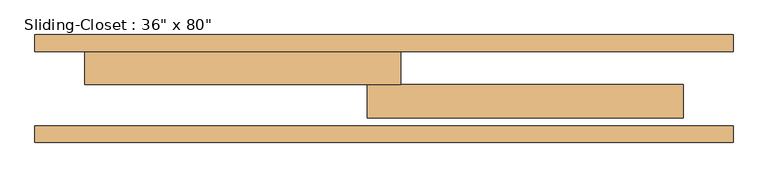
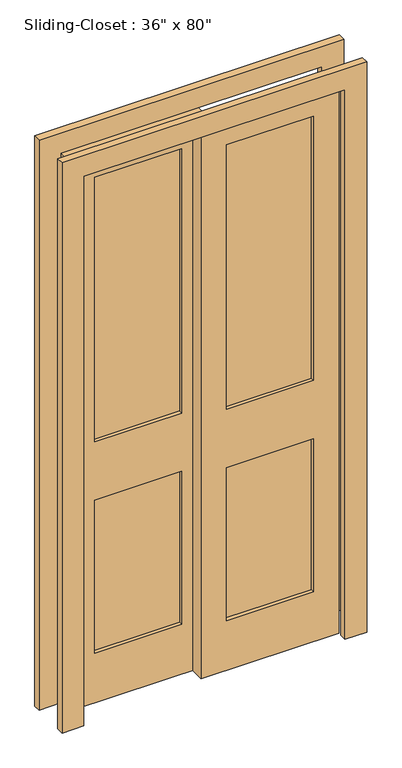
"""IFC4 building model written with IfcOpenShell, lengths in millimetres: door geometry."""

from ifc_helpers import new_model, si_unit, frame, origin, place, context, project, spatial, polyline, outline, extrude, source, transform, mapped, element, save


def door_88c23cd7(model_context):
    return source(origin(), model_context, "Body", "SweptSolid", [
        extrude(outline(polyline([(-63.5, 146.05), (-368.3, 146.05), (-368.3, 171.45), (-63.5, 171.45), (-63.5, 146.05)])), frame((0.0, 0.0, 965.2), z_axis=(0.0, 0.0, 1.0), x_axis=(1.0, 0.0, 0.0)), (0.0, 0.0, 1.0), 977.9),
        extrude(outline(polyline([(-63.5, 146.05), (-368.3, 146.05), (-368.3, 171.45), (-63.5, 171.45), (-63.5, 146.05)])), frame((0.0, 0.0, 184.15), z_axis=(0.0, 0.0, 1.0), x_axis=(1.0, 0.0, 0.0)), (0.0, 0.0, 1.0), 565.15),
        extrude(outline(polyline([(63.5, 120.65), (368.3, 120.65), (368.3, 95.25), (63.5, 95.25), (63.5, 120.65)])), frame((0.0, 0.0, 965.2), z_axis=(0.0, 0.0, 1.0), x_axis=(1.0, 0.0, 0.0)), (0.0, 0.0, 1.0), 977.9),
        extrude(outline(polyline([(63.5, 120.65), (368.3, 120.65), (368.3, 95.25), (63.5, 95.25), (63.5, 120.65)])), frame((0.0, 0.0, 184.15), z_axis=(0.0, 0.0, 1.0), x_axis=(1.0, 0.0, 0.0)), (0.0, 0.0, 1.0), 565.15),
        extrude(outline(polyline([(2032.0, 25.4), (2032.0, -457.2), (0.0, -457.2), (0.0, 25.4), (2032.0, 25.4)]), holes=[polyline([(184.15, -368.3), (749.3, -368.3), (749.3, -63.5), (184.15, -63.5), (184.15, -368.3)]), polyline([(965.2, -368.3), (1943.1, -368.3), (1943.1, -63.5), (965.2, -63.5), (965.2, -368.3)])]), frame((0.0, 133.35, 0.0), z_axis=(0.0, 1.0, 0.0), x_axis=(0.0, 0.0, 1.0)), (0.0, 0.0, 1.0), 50.8),
        extrude(outline(polyline([(0.0, -533.4), (0.0, -457.2), (2032.0, -457.2), (2032.0, 457.2), (0.0, 457.2), (0.0, 533.4), (2108.2, 533.4), (2108.2, -533.4), (0.0, -533.4)])), frame((0.0, 44.45, 0.0), z_axis=(0.0, 1.0, 0.0), x_axis=(0.0, 0.0, 1.0)), (0.0, 0.0, 1.0), 25.4),
        extrude(outline(polyline([(0.0, 533.4), (2108.2, 533.4), (2108.2, -533.4), (0.0, -533.4), (0.0, -457.2), (2032.0, -457.2), (2032.0, 457.2), (0.0, 457.2), (0.0, 533.4)])), frame((0.0, 184.15, 0.0), z_axis=(0.0, 1.0, 0.0), x_axis=(0.0, 0.0, 1.0)), (0.0, 0.0, 1.0), 25.4),
        extrude(outline(polyline([(2032.0, -25.4), (0.0, -25.4), (0.0, 457.2), (2032.0, 457.2), (2032.0, -25.4)]), holes=[polyline([(965.2, 368.3), (965.2, 63.5), (1943.1, 63.5), (1943.1, 368.3), (965.2, 368.3)]), polyline([(184.15, 368.3), (184.15, 63.5), (749.3, 63.5), (749.3, 368.3), (184.15, 368.3)])]), frame((0.0, 82.55, 0.0), z_axis=(0.0, 1.0, 0.0), x_axis=(0.0, 0.0, 1.0)), (0.0, 0.0, 1.0), 50.8),
    ])


if __name__ == "__main__":
    model = new_model("IFC4")
    model_context = context("Model", 3, world=origin())
    ifc_project = project(units=[si_unit("LENGTHUNIT", "METRE", prefix="MILLI")], contexts=[model_context])
    site = spatial("IfcSite", under=ifc_project)
    building = spatial("IfcBuilding", under=site)
    placement = place(None, origin())
    door_shape = door_88c23cd7(model_context)
    element("IfcDoor", 1, ObjectType="Sliding-Closet : 36\" x 80\"", at=placement, inside=building, context=model_context, shape_type="MappedRepresentation", body=[
        mapped(door_shape, transform((0.0, 0.0, 0.0), x_axis=(1.0, 0.0, 0.0), y_axis=(0.0, 1.0, 0.0), z_axis=(0.0, 0.0, 1.0))),
    ])
    save(model, "model.ifc")
